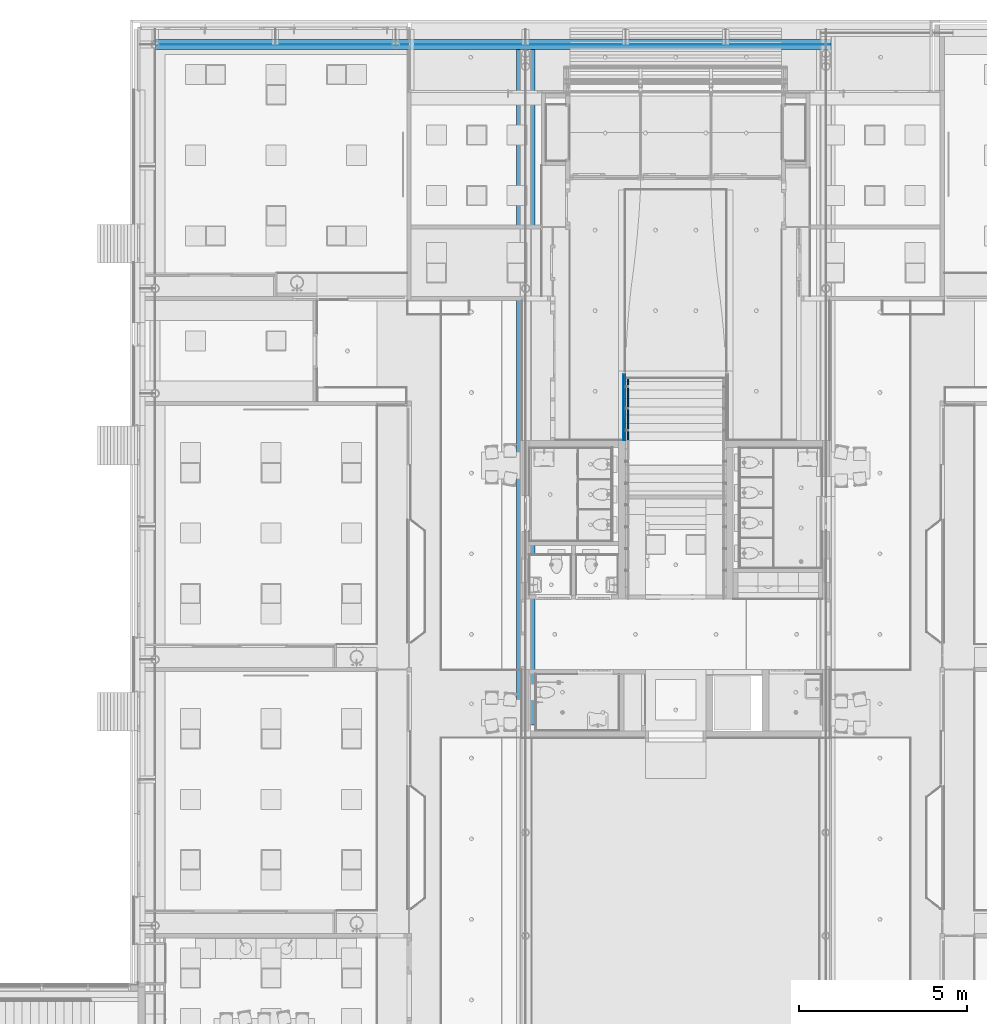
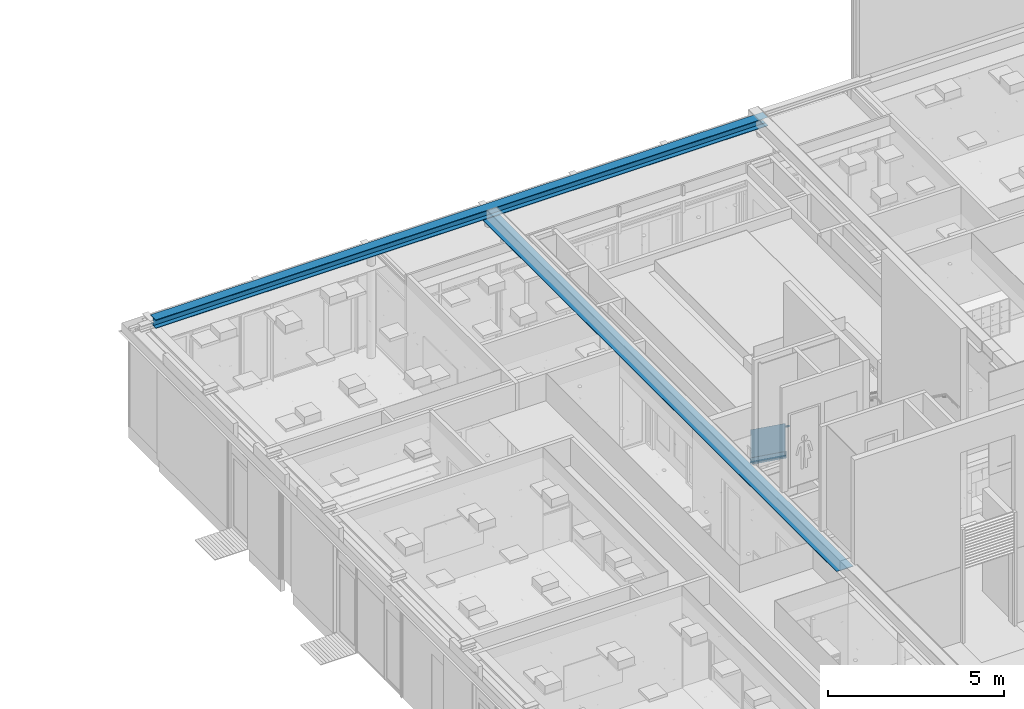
# One storey, part 123 of 347: 10 building element parts, 5 elements without a shape of their own.
"""IFC2X3 building model written with IfcOpenShell, lengths in millimetres."""

from ifc_helpers import new_model, entity, si_unit, converted_unit, derived_unit, money_unit, direction, frame, origin_with_axes, place, context, subcontext, project, spatial, faceted_brep, material, type_object, element, aggregate, save


model = new_model("IFC2X3")

# Units and contexts
model_context = context("Model", 3, precision=0.01, world=origin_with_axes(), true_north=direction((0.0, 1.0)))
plan_context = context("Plan", 3, precision=0.01, world=origin_with_axes(), true_north=direction((0.0, 1.0)))
body_context = subcontext(model_context, "Body", "Model", "MODEL_VIEW")
ifc_project = project(units=[si_unit("LENGTHUNIT", "METRE", prefix="MILLI"), si_unit("AREAUNIT", "SQUARE_METRE"), si_unit("VOLUMEUNIT", "CUBIC_METRE"), converted_unit("PLANEANGLEUNIT", "DEGREE", entity("IfcPlaneAngleMeasure", 0.0174532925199), si_unit("PLANEANGLEUNIT", "RADIAN"), dimensions=[0, 0, 0, 0, 0, 0, 0]), money_unit("EUR"), converted_unit("TIMEUNIT", "Year", entity("IfcTimeMeasure", 31556926.0), si_unit("TIMEUNIT", "SECOND"), dimensions=[0, 0, 1, 0, 0, 0, 0]), si_unit("MASSUNIT", "GRAM", prefix="KILO"), si_unit("THERMODYNAMICTEMPERATUREUNIT", "DEGREE_CELSIUS"), si_unit("LUMINOUSINTENSITYUNIT", "LUMEN"), si_unit("ENERGYUNIT", "JOULE", prefix="MEGA"), derived_unit("THERMALCONDUCTANCEUNIT", [(si_unit("POWERUNIT", "WATT"), 1), (si_unit("LENGTHUNIT", "METRE"), -1), (si_unit("THERMODYNAMICTEMPERATUREUNIT", "KELVIN"), -1)]), derived_unit("SPECIFICHEATCAPACITYUNIT", [(si_unit("ENERGYUNIT", "JOULE"), 1), (si_unit("MASSUNIT", "GRAM", prefix="KILO"), -1), (si_unit("THERMODYNAMICTEMPERATUREUNIT", "KELVIN"), -1)]), derived_unit("MASSDENSITYUNIT", [(si_unit("MASSUNIT", "GRAM", prefix="KILO"), 1), (si_unit("VOLUMEUNIT", "CUBIC_METRE"), -1)])], contexts=[model_context, plan_context])

# Site, building, storey
site_placement = place(None, origin_with_axes())
site = spatial("IfcSite", under=ifc_project, at=site_placement, Name="Site", CompositionType="ELEMENT")
building_placement = place(site_placement, origin_with_axes())
building = spatial("IfcBuilding", under=site, at=building_placement, Name="Naam gebouw", CompositionType="ELEMENT")
storey_placement = place(building_placement, origin_with_axes())
storey = spatial("IfcBuildingStorey", under=building, at=storey_placement, Name="begane grond", CompositionType="ELEMENT", Elevation=0.0)

# Railing, member, building element part
railing_type = type_object("IfcRailingType", Name="Railing Type", PredefinedType="NOTDEFINED")
railing_placement = place(storey_placement, frame((38575.0, 36499.9999823, 72.0000018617), z_axis=(0.0, 0.0, 1.0), x_axis=(-1.0, 0.0, 0.0)))
railing = element("IfcRailing", 1, at=railing_placement, inside=storey, type_object=railing_type, Name="_Reling-x", PredefinedType="NOTDEFINED")
member_type = type_object("IfcMemberType", Name="IfcMember", PredefinedType="USERDEFINED")
member_placement = place(railing_placement, frame((-75.0, 749.999964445, 844.098300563), z_axis=(0.0, 0.0, 1.0), x_axis=(-1.0, 0.0, 0.0)))
member = element("IfcMember", 2, at=member_placement, type_object=member_type, Name="_Handregel-x")
aggregate(railing, [member])
ifc_material_1 = material(Name="Hout AFW")
building_element_part_1_placement = place(member_placement, origin_with_axes())
building_element_part_1 = element("IfcBuildingElementPart", 3, at=building_element_part_1_placement, material=ifc_material_1, Name="Hout AFW", context=body_context, shape_type="Brep", body=[
    faceted_brep([(25.0, 935.392363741, 35.6133410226), (24.6201938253, 937.928950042, 39.1363774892), (24.6201938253, -956.663411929, 1403.24290202), (25.0, -958.063653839, 1398.90169758), (24.6201938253, 932.855777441, 32.090304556), (23.4923155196, 930.396264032, 28.6743137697), (21.6506350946, 928.088554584, 25.4691618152), (19.151111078, 926.002767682, 22.5722356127), (16.0696902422, 924.202278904, 20.0715567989), (12.5, 922.741795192, 18.0431072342), (8.55050358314, 921.665692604, 16.5485203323), (4.34120444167, 921.006667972, 15.6332083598), (0.0, 920.784745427, 15.3249826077), (-4.34120444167, 921.006667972, 15.6332083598), (-8.55050358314, 921.665692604, 16.5485203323), (-12.5, 922.741795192, 18.0431072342), (-16.0696902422, 924.202278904, 20.0715567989), (-19.151111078, 926.002767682, 22.5722356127), (-21.6506350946, 928.088554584, 25.4691618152), (-23.4923155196, 930.396264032, 28.6743137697), (-24.6201938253, 932.855777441, 32.090304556), (-25.0, 935.392363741, 35.6133410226), (-24.6201938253, 937.928950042, 39.1363774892), (-23.4923155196, 940.388463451, 42.5523682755), (-21.6506350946, 942.696172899, 45.7575202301), (-19.151111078, 944.781959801, 48.6544464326), (-16.0696902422, 946.582448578, 51.1551252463), (-12.5, 948.042932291, 53.183574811), (-8.55050358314, 949.119034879, 54.6781617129), (-4.34120444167, 949.778059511, 55.5934736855), (0.0, 949.999982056, 55.9016994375), (4.34120444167, 949.778059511, 55.5934736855), (8.55050358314, 949.119034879, 54.6781617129), (12.5, 948.042932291, 53.183574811), (16.0696902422, 946.582448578, 51.1551252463), (19.151111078, 944.781959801, 48.6544464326), (21.6506350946, 942.696172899, 45.7575202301), (23.4923155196, 940.388463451, 42.5523682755), (23.4923155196, -955.30571566, 1407.45220116), (21.6506350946, -954.031817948, 1411.40169758), (19.151111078, -952.880425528, 1414.97138782), (16.0696902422, -951.886522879, 1418.05280865), (12.5, -951.080309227, 1420.55233267), (8.55050358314, -950.486280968, 1422.3940131), (4.34120444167, -950.122487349, 1423.5218914), (0.0, -949.999982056, 1423.90169758), (-4.34120444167, -950.122487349, 1423.5218914), (-8.55050358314, -950.486280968, 1422.3940131), (-12.5, -951.080309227, 1420.55233267), (-16.0696902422, -951.886522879, 1418.05280865), (-19.151111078, -952.880425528, 1414.97138782), (-21.6506350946, -954.031817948, 1411.40169758), (-23.4923155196, -955.30571566, 1407.45220116), (-24.6201938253, -956.663411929, 1403.24290202), (-25.0, -958.063653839, 1398.90169758), (-24.6201938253, -959.46389575, 1394.56049313), (-23.4923155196, -960.821592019, 1390.35119399), (-21.6506350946, -962.095489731, 1386.40169758), (-19.151111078, -963.24688215, 1382.83200733), (-16.0696902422, -964.2407848, 1379.7505865), (-12.5, -965.046998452, 1377.25106248), (-8.55050358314, -965.641026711, 1375.40938206), (-4.34120444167, -966.00482033, 1374.28150375), (0.0, -966.127325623, 1373.90169758), (4.34120444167, -966.00482033, 1374.28150375), (8.55050358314, -965.641026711, 1375.40938206), (12.5, -965.046998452, 1377.25106248), (16.0696902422, -964.2407848, 1379.7505865), (19.151111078, -963.24688215, 1382.83200733), (21.6506350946, -962.095489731, 1386.40169758), (23.4923155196, -960.821592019, 1390.35119399), (24.6201938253, -959.46389575, 1394.56049313)], [[[0, 1, 2, 3]], [[0, 4, 5, 6, 7, 8, 9, 10, 11, 12, 13, 14, 15, 16, 17, 18, 19, 20, 21, 22, 23, 24, 25, 26, 27, 28, 29, 30, 31, 32, 33, 34, 35, 36, 37, 1]], [[1, 37, 38, 2]], [[3, 2, 38, 39, 40, 41, 42, 43, 44, 45, 46, 47, 48, 49, 50, 51, 52, 53, 54, 55, 56, 57, 58, 59, 60, 61, 62, 63, 64, 65, 66, 67, 68, 69, 70, 71]], [[4, 0, 3, 71]], [[5, 4, 71, 70]], [[6, 5, 70, 69]], [[7, 6, 69, 68]], [[8, 7, 68, 67]], [[9, 8, 67, 66]], [[10, 9, 66, 65]], [[11, 10, 65, 64]], [[12, 11, 64, 63]], [[13, 12, 63, 62]], [[14, 13, 62, 61]], [[15, 14, 61, 60]], [[16, 15, 60, 59]], [[17, 16, 59, 58]], [[18, 17, 58, 57]], [[19, 18, 57, 56]], [[20, 19, 56, 55]], [[21, 20, 55, 54]], [[22, 21, 54, 53]], [[23, 22, 53, 52]], [[24, 23, 52, 51]], [[25, 24, 51, 50]], [[26, 25, 50, 49]], [[27, 26, 49, 48]], [[28, 27, 48, 47]], [[29, 28, 47, 46]], [[30, 29, 46, 45]], [[31, 30, 45, 44]], [[32, 31, 44, 43]], [[33, 32, 43, 42]], [[34, 33, 42, 41]], [[35, 34, 41, 40]], [[36, 35, 40, 39]], [[37, 36, 39, 38]]]),
])
aggregate(member, [building_element_part_1])

# Beam, building element parts
beam_type_1 = type_object("IfcBeamType", Name="34 glazen balustrade 60 x 992", PredefinedType="BEAM")
beam_1_placement = place(storey_placement, frame((38575.0, 36769.9999997, 21.5999956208), z_axis=(0.0, 0.0, 1.0), x_axis=(-1.0, 0.0, 0.0)))
beam_1 = element("IfcBeam", 4, at=beam_1_placement, inside=storey, type_object=beam_type_1, Name="28_Balk-x", ObjectType="BEAM")
ifc_material_2 = material(Name="Glas")
building_element_part_2_placement = place(beam_1_placement, origin_with_axes())
building_element_part_2 = element("IfcBuildingElementPart", 5, at=building_element_part_2_placement, material=ifc_material_2, Name="Glas", context=body_context, shape_type="Brep", body=[
    faceted_brep([(22.4999972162, 0.0, 1000.00000105), (22.4999972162, 1969.99996392, 2418.40000543), (22.4999972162, 1969.99996392, 1443.04466837), (22.4999972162, 0.0, 24.6446639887), (37.5000018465, 0.0, 1000.00000105), (37.5000018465, 1969.99996392, 2418.40000543), (37.4999885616, 1969.99996392, 1443.04466837), (37.4999885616, 1969.99996392, 1332.14364547), (22.4999972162, 1969.99996392, 1332.14364547), (22.4999972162, 0.0, -86.2563589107), (37.4999885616, 0.0, -86.2563589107), (37.4999885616, 0.0, 24.6446639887)], [[[0, 1, 2, 3]], [[4, 5, 1, 0]], [[2, 1, 5, 6, 7, 8]], [[3, 2, 8, 9]], [[4, 0, 3, 9, 10, 11]], [[11, 6, 5, 4]], [[10, 7, 6, 11]], [[9, 8, 7, 10]]]),
])
ifc_material_3 = material(Name="Membraan - rubber")
building_element_part_3_placement = place(beam_1_placement, origin_with_axes())
building_element_part_3 = element("IfcBuildingElementPart", 6, at=building_element_part_3_placement, material=ifc_material_3, Name="Membraan - rubber", context=body_context, shape_type="Brep", body=[
    faceted_brep([(10.0, 9.69264510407, -91.5999956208), (10.0, 0.0, -91.5999956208), (10.0, 0.0, 24.6446750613), (10.0, 1969.99996392, 1443.04467944), (10.0, 1969.99996392, 1319.82130413), (50.0, 0.0, -91.5999956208), (50.0, 9.69264510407, -91.5999956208), (50.0, 0.0, 24.6446750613), (37.4999940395, 0.0, 24.6446677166), (37.4999940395, 0.0, -86.2563553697), (22.4999940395, 0.0, -86.2563553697), (22.4999940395, 0.0, 24.6446677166), (22.4999940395, 1969.99996392, 1443.0446721), (50.0, 1969.99996392, 1443.04467944), (50.0, 1969.99996392, 1319.82130413), (22.4999940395, 1969.99996392, 1332.14364901), (37.4999940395, 1969.99996392, 1332.14364901), (37.4999940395, 1969.99996392, 1443.0446721)], [[[0, 1, 2, 3, 4]], [[5, 1, 0, 6]], [[1, 5, 7, 8, 9, 10, 11, 2]], [[2, 11, 12, 3]], [[13, 14, 4, 3, 12, 15, 16, 17]], [[6, 0, 4, 14]], [[5, 6, 14, 13, 7]], [[8, 7, 13, 17]], [[9, 8, 17, 16]], [[10, 9, 16, 15]], [[11, 10, 15, 12]]]),
])
ifc_material_4 = material(Name="Metaal - Staal C wit")
building_element_part_4_placement = place(beam_1_placement, origin_with_axes())
building_element_part_4 = element("IfcBuildingElementPart", 7, at=building_element_part_4_placement, material=ifc_material_4, Name="Metaal - Staal C wit", context=body_context, shape_type="Brep", body=[
    faceted_brep([(10.0, 1969.99996392, 1443.04467944), (0.0, 1969.99996392, 1443.04467944), (0.0, 0.0, 24.6446750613), (10.0, 0.0, 24.6446750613), (10.0, 1969.99996392, 1270.53195401), (10.0, 1969.99996392, 1196.59792883), (0.0, 1969.99996392, 1196.59792883), (0.0, 0.0, -221.802075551), (10.0, 0.0, -221.802075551), (10.0, 0.0, -147.868050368)], [[[0, 1, 2, 3]], [[0, 4, 5, 6, 1]], [[1, 6, 7, 2]], [[3, 2, 7, 8, 9]], [[4, 0, 3, 9]], [[5, 4, 9, 8]], [[6, 5, 8, 7]]]),
])
building_element_part_5_placement = place(beam_1_placement, origin_with_axes())
building_element_part_5 = element("IfcBuildingElementPart", 8, at=building_element_part_5_placement, material=ifc_material_4, Name="Metaal - Staal C wit", context=body_context, shape_type="Brep", body=[
    faceted_brep([(50.0, 1969.99996392, 1443.04467944), (50.0, 1969.99996392, 1270.53195401), (50.0, 0.0, -147.868050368), (50.0, 0.0, 24.6446750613), (60.0, 1969.99996392, 1443.04467944), (60.0, 1969.99996392, 1258.20961648), (50.0, 1969.99996392, 1258.20961648), (50.0, 0.0, -160.190387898), (60.0, 0.0, -160.190387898), (60.0, 0.0, 24.6446750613)], [[[0, 1, 2, 3]], [[0, 4, 5, 6, 1]], [[1, 6, 7, 2]], [[3, 2, 7, 8, 9]], [[4, 0, 3, 9]], [[5, 4, 9, 8]], [[6, 5, 8, 7]]]),
])
building_element_part_6_placement = place(beam_1_placement, origin_with_axes())
building_element_part_6 = element("IfcBuildingElementPart", 9, at=building_element_part_6_placement, material=ifc_material_4, Name="Metaal - Staal C wit", context=body_context, shape_type="Brep", body=[
    faceted_brep([(10.0, 1969.99996392, 1270.53195401), (50.0, 1969.99996392, 1270.53195401), (50.0, 0.0, -147.868050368), (10.0, 0.0, -147.868050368), (10.0, 1969.99996392, 1319.82130413), (50.0, 1969.99996392, 1319.82130413), (13.0, 1969.99996392, 1274.22865527), (47.0, 1969.99996392, 1274.22865527), (47.0, 1969.99996392, 1316.12460287), (13.0, 1969.99996392, 1316.12460287), (50.0, 0.0, -98.5787002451), (10.0, 0.0, -98.5787002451), (13.0, 0.0, -144.171349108), (13.0, 0.0, -102.275401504), (47.0, 0.0, -102.275401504), (47.0, 0.0, -144.171349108)], [[[0, 1, 2, 3]], [[0, 4, 5, 1], [6, 7, 8, 9]], [[1, 5, 10, 2]], [[3, 2, 10, 11], [12, 13, 14, 15]], [[4, 0, 3, 11]], [[5, 4, 11, 10]], [[7, 6, 12, 15]], [[8, 7, 15, 14]], [[9, 8, 14, 13]], [[6, 9, 13, 12]]]),
])
aggregate(beam_1, [building_element_part_2, building_element_part_3, building_element_part_4, building_element_part_5, building_element_part_6])

beam_type_2 = type_object("IfcBeamType", Name="28 HEB300 300 x 300", PredefinedType="BEAM")
beam_2_placement = place(storey_placement, frame((24575.0, 46587.0, 3860.0), z_axis=(0.0, 0.0, 1.0), x_axis=(0.0, -1.0, 0.0)))
beam_2 = element("IfcBeam", 10, at=beam_2_placement, inside=storey, type_object=beam_type_2, Name="28_Balk-x", ObjectType="BEAM")
ifc_material_5 = material(Name="Metaal - Staal C")
building_element_part_7_placement = place(beam_2_placement, origin_with_axes())
building_element_part_7 = element("IfcBuildingElementPart", 11, at=building_element_part_7_placement, material=ifc_material_5, Name="Metaal - Staal C", context=body_context, shape_type="Brep", body=[
    faceted_brep([(150.0, 20120.000004, 0.0), (-150.0, 20120.000004, 0.0), (-150.0, 0.0, 0.0), (150.0, 0.0, 0.0), (-150.0, 20120.000004, -0.500000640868), (150.0, 20120.000004, -0.500000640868), (-150.0, 19975.7499972, -0.500000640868), (-150.0, 19975.7499972, -19.0), (-150.0, 0.0, -19.0), (-5.5, 0.0, -19.0), (5.5, 0.0, -19.0), (150.0, 0.0, -19.0), (150.0, 19975.7499972, -19.0), (150.0, 19975.7499972, -0.500000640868), (5.5, 19975.7499972, -19.0), (-5.5, 19975.7499972, -19.0)], [[[0, 1, 2, 3]], [[4, 1, 0, 5]], [[6, 7, 8, 2, 1, 4]], [[3, 2, 8, 9, 10, 11]], [[5, 0, 3, 11, 12, 13]], [[6, 4, 5, 13]], [[7, 6, 13, 12, 14, 15]], [[7, 15, 9, 8]], [[15, 14, 10, 9]], [[14, 12, 11, 10]]]),
])
building_element_part_8_placement = place(beam_2_placement, origin_with_axes())
building_element_part_8 = element("IfcBuildingElementPart", 12, at=building_element_part_8_placement, material=ifc_material_5, Name="Metaal - Staal C", context=body_context, shape_type="Brep", body=[
    faceted_brep([(-5.5, 20120.000004, -281.0), (-150.0, 20120.000004, -281.0), (-150.0, 0.0, -281.0), (-5.5, 0.0, -281.0), (-150.0, 20120.000004, -300.0), (5.5, 20120.000004, -281.0), (150.0, 20120.000004, -281.0), (150.0, 20120.000004, -300.0), (-150.0, 0.0, -300.0), (5.5, 0.0, -281.0), (150.0, 0.0, -300.0), (150.0, 0.0, -281.0)], [[[0, 1, 2, 3]], [[4, 1, 0, 5, 6, 7]], [[1, 4, 8, 2]], [[9, 3, 2, 8, 10, 11]], [[5, 0, 3, 9]], [[6, 5, 9, 11]], [[7, 6, 11, 10]], [[4, 7, 10, 8]]]),
])
building_element_part_9_placement = place(beam_2_placement, origin_with_axes())
building_element_part_9 = element("IfcBuildingElementPart", 13, at=building_element_part_9_placement, material=ifc_material_5, Name="Metaal - Staal C", context=body_context, shape_type="Brep", body=[
    faceted_brep([(-5.5, 19975.7499972, -19.0), (-5.5, 19975.7499972, -279.500002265), (-5.5, 20120.000004, -279.499997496), (-5.5, 20120.000004, -281.0), (-5.5, 0.0, -281.0), (-5.5, 0.0, -19.0), (5.5, 19975.7499972, -19.0), (5.5, 19975.7499972, -279.500002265), (5.5, 20120.000004, -279.499997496), (5.5, 20120.000004, -281.0), (5.5, 0.0, -281.0), (5.5, 0.0, -19.0)], [[[0, 1, 2, 3, 4, 5]], [[1, 0, 6, 7]], [[2, 1, 7, 8]], [[3, 2, 8, 9]], [[3, 9, 10, 4]], [[11, 5, 4, 10]], [[6, 0, 5, 11]], [[7, 6, 11, 10, 9, 8]]]),
])
aggregate(beam_2, [building_element_part_7, building_element_part_8, building_element_part_9])

# Beam, building element part
beam_type_3 = type_object("IfcBeamType", Name="28 SFBHE320B/S355 550 x 340", PredefinedType="BEAM")
beam_3_placement = place(storey_placement, frame((35605.0, 46436.9999776, 3560.0), z_axis=(0.0, 0.0, 1.0), x_axis=(-1.0, 0.0, 0.0)))
beam_3 = element("IfcBeam", 14, at=beam_3_placement, inside=storey, type_object=beam_type_3, Name="28_Balk-x", ObjectType="BEAM")
building_element_part_10_placement = place(beam_3_placement, origin_with_axes())
building_element_part_10 = element("IfcBuildingElementPart", 15, at=building_element_part_10_placement, material=ifc_material_5, Name="Metaal - Staal C", context=body_context, shape_type="Brep", body=[
    faceted_brep([(-275.0, 20117.0000104, 0.0), (-275.0, 20117.0000104, -20.0), (-275.0, 0.0, -20.0), (-275.0, 0.0, 0.0), (-170.0, 20117.0000104, 0.0), (170.0, 20117.0000104, 0.0), (275.0, 20117.0000104, 0.0), (275.0, 20117.0000104, -20.0), (275.0, 0.0, -20.0), (275.0, 0.0, 0.0), (170.0, 0.0, 0.0), (-170.0, 0.0, 0.0)], [[[0, 1, 2, 3]], [[0, 4, 5, 6, 7, 1]], [[1, 7, 8, 2]], [[3, 2, 8, 9, 10, 11]], [[4, 0, 3, 11]], [[5, 4, 11, 10]], [[6, 5, 10, 9]], [[7, 6, 9, 8]]]),
])
aggregate(beam_3, [building_element_part_10])

save(model, "model.ifc")
